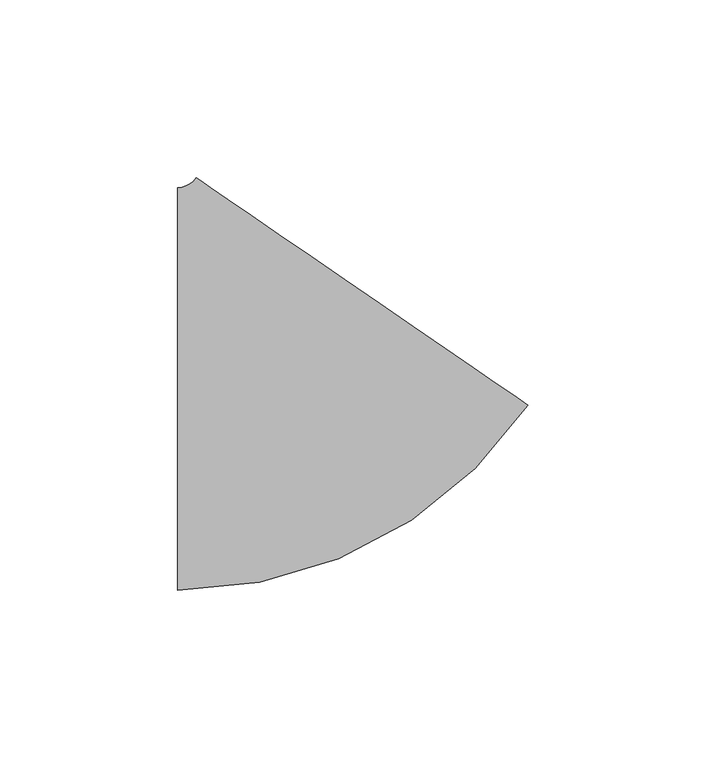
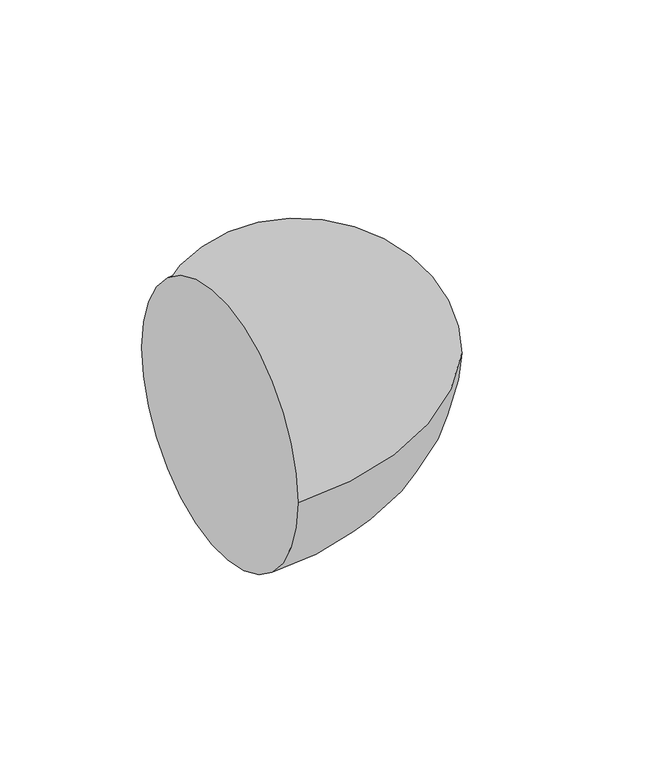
"""IFC4 building model written with IfcOpenShell, lengths in millimetres: pipe fitting geometry, M_Codo - Genérico : Estándar."""

import ifcopenshell
import ifcopenshell.guid

model = None  # the IFC model being written
_history = None  # IfcOwnerHistory: only IFC2X3 demands one
_inside = {}  # id of a spatial element -> (the spatial element, [elements in it])
_under = {}  # id of a project, library or spatial element -> (it, [spatial elements below it])
_declared = {}  # id of a project -> (the project, [libraries it declares])
_typed = {}  # id of a type object -> (the type object, [elements of that type])
_made_of = {}  # id of a material, layer set ... -> (it, [elements and type objects made of it])


def new_model(schema):
    """Start an empty IFC model of exactly this schema.

    Asked for "IFC4X3", IfcOpenShell would pick the latest addendum, in which some entities
    have other attributes; the version numbers below select the first issue.
    IFC2X3 requires an IfcOwnerHistory on every rooted entity: one is made here for all.
    """
    global model, _history
    if schema == "IFC4X3":
        model = ifcopenshell.file(schema_version=(4, 3, 0, 0))
    else:
        model = ifcopenshell.file(schema=schema)
    _inside.clear()
    _under.clear()
    _declared.clear()
    _typed.clear()
    _made_of.clear()
    _history = None
    if model.schema == "IFC2X3":
        org = make("IfcOrganization", Name="unknown")
        user = make(
            "IfcPersonAndOrganization",
            ThePerson=make("IfcPerson", FamilyName="unknown"),
            TheOrganization=org,
        )
        app = make(
            "IfcApplication",
            ApplicationDeveloper=org,
            Version="unknown",
            ApplicationFullName="unknown",
            ApplicationIdentifier="unknown",
        )
        _history = make(
            "IfcOwnerHistory",
            OwningUser=user,
            OwningApplication=app,
            ChangeAction="ADDED",
            CreationDate=0,
        )
    return model


def make(cls, **values):
    """One entity of the class cls with the attributes given. An attribute that is None is left unset."""
    return model.create_entity(
        cls, **{name: value for name, value in values.items() if value is not None}
    )


def rooted(cls, **values):
    """An entity with a GlobalId (a new one), such as an element, a storey or a relation."""
    return make(cls, GlobalId=ifcopenshell.guid.new(), OwnerHistory=_history, **values)


def si_unit(unit_type, name, prefix=None):
    """IfcSIUnit, for example si_unit("LENGTHUNIT", "METRE", prefix="MILLI")."""
    return make("IfcSIUnit", UnitType=unit_type, Prefix=prefix, Name=name)


def assignment(units):
    """IfcUnitAssignment: the units of a project."""
    return None if units is None else make("IfcUnitAssignment", Units=units)


def point(xyz):
    """IfcCartesianPoint."""
    return None if xyz is None else make("IfcCartesianPoint", Coordinates=xyz)


def direction(xyz):
    """IfcDirection."""
    return None if xyz is None else make("IfcDirection", DirectionRatios=xyz)


def frame(location, z_axis=None, x_axis=None):
    """IfcAxis2Placement3D, a coordinate frame: its origin and axes. An axis left out is left unset."""
    return make(
        "IfcAxis2Placement3D",
        Location=point(location),
        Axis=direction(z_axis),
        RefDirection=direction(x_axis),
    )


def origin():
    """The frame at (0, 0, 0) with its axes left unset."""
    return frame((0.0, 0.0, 0.0))


def place(relative_to, where):
    """IfcLocalPlacement: puts the frame where relative to a parent placement (None: the world)."""
    return make(
        "IfcLocalPlacement", PlacementRelTo=relative_to, RelativePlacement=where
    )


def context(
    kind, dimensions, precision=None, world=None, true_north=None, identifier=None
):
    """IfcGeometricRepresentationContext, for example the 3D "Model" context."""
    return make(
        "IfcGeometricRepresentationContext",
        ContextIdentifier=identifier,
        ContextType=kind,
        CoordinateSpaceDimension=dimensions,
        Precision=precision,
        WorldCoordinateSystem=world,
        TrueNorth=true_north,
    )


def project(units=None, contexts=None):
    """IfcProject with its units and contexts."""
    return rooted(
        "IfcProject",
        Name="project",
        RepresentationContexts=contexts,
        UnitsInContext=assignment(units),
    )


def spatial(cls, under=None, at=None, **own):
    """A site, building, storey or space (cls), placed at a placement, below another one or the project."""
    s = rooted(cls, ObjectPlacement=at, **own)
    if under is not None:
        _under.setdefault(under.id(), (under, []))[1].append(s)
    return s


def circle_curve(where, radius):
    """IfcCircle in the frame where."""
    return make("IfcCircle", Position=where, Radius=radius)


def ellipse_curve(where, semi_axis1, semi_axis2):
    """IfcEllipse in the frame where."""
    return make(
        "IfcEllipse", Position=where, SemiAxis1=semi_axis1, SemiAxis2=semi_axis2
    )


def trimmed(basis, trim1, trim2, sense, master):
    """IfcTrimmedCurve: the piece of a basis curve between two trims."""
    return make(
        "IfcTrimmedCurve",
        BasisCurve=basis,
        Trim1=trim1,
        Trim2=trim2,
        SenseAgreement=sense,
        MasterRepresentation=master,
    )


def shape(context_of_items, identifier, shape_type, items):
    """IfcShapeRepresentation: the items that make up one representation, for example the "Body"."""
    return make(
        "IfcShapeRepresentation",
        ContextOfItems=context_of_items,
        RepresentationIdentifier=identifier,
        RepresentationType=shape_type,
        Items=items,
    )


def source(mapping_origin, context_of_items, identifier, shape_type, items):
    """IfcRepresentationMap: a shape defined once, which mapped items show again and again."""
    return make(
        "IfcRepresentationMap",
        MappingOrigin=mapping_origin,
        MappedRepresentation=shape(context_of_items, identifier, shape_type, items),
    )


def transform(
    local_origin,
    x_axis=None,
    y_axis=None,
    z_axis=None,
    scale=None,
    scale2=None,
    scale3=None,
    uniform=True,
):
    """IfcCartesianTransformationOperator3D, or its non-uniform kind. x_axis, y_axis, z_axis: its Axis1, 2, 3."""
    if uniform:
        return make(
            "IfcCartesianTransformationOperator3D",
            Axis1=direction(x_axis),
            Axis2=direction(y_axis),
            LocalOrigin=point(local_origin),
            Scale=scale,
            Axis3=direction(z_axis),
        )
    return make(
        "IfcCartesianTransformationOperator3DnonUniform",
        Axis1=direction(x_axis),
        Axis2=direction(y_axis),
        LocalOrigin=point(local_origin),
        Scale=scale,
        Axis3=direction(z_axis),
        Scale2=scale2,
        Scale3=scale3,
    )


def mapped(mapping_source, mapping_target):
    """IfcMappedItem: shows the shape of a source again, moved by a transform."""
    return make(
        "IfcMappedItem", MappingSource=mapping_source, MappingTarget=mapping_target
    )


def made_of(thing, what):
    """Note that an element or type object is made of a material, layer set ...; save() writes the relation."""
    if what is not None:
        _made_of.setdefault(what.id(), (what, []))[1].append(thing)
    return thing


def element(
    cls,
    number,
    at=None,
    inside=None,
    cuts=None,
    type_object=None,
    material=None,
    context=None,
    identifier="Body",
    shape_type=None,
    held_by="IfcProductDefinitionShape",
    body=None,
    shapes=None,
    **own,
):
    """One element of the class cls, such as IfcWall. Its Tag is "e" and its number.

    at: its placement. inside: the storey or other place that contains it. cuts: it is an
    opening in that element (IfcRelVoidsElement). A single representation is given by context,
    identifier, shape_type and body (its items); several are given by shapes. held_by: the class
    of the entity that holds the representations. save() writes the other relations.
    """
    e = rooted(cls, Tag="e%d" % number, ObjectPlacement=at, **own)
    if body is not None:
        shapes = [shape(context, identifier, shape_type, body)]
    if shapes is not None:
        e.Representation = make(held_by, Representations=shapes)
    if inside is not None:
        _inside.setdefault(inside.id(), (inside, []))[1].append(e)
    if cuts is not None:
        rooted(
            "IfcRelVoidsElement", RelatingBuildingElement=cuts, RelatedOpeningElement=e
        )
    if type_object is not None:
        _typed.setdefault(type_object.id(), (type_object, []))[1].append(e)
    return made_of(e, material)


def aggregate(whole, parts):
    """IfcRelAggregates: a whole, such as a stair, and the parts it consists of."""
    return rooted("IfcRelAggregates", RelatingObject=whole, RelatedObjects=parts)


def save(model, path):
    """Write the relations noted so far, then the file.

    IfcRelAggregates (storeys below a building ...), IfcRelContainedInSpatialStructure (elements
    in a storey), IfcRelDefinesByType, IfcRelAssociatesMaterial and IfcRelDeclares: one each for
    every whole, place, type object, material and project.
    """
    for whole, parts in _under.values():
        aggregate(whole, parts)
    for where, things in _inside.values():
        rooted(
            "IfcRelContainedInSpatialStructure",
            RelatedElements=things,
            RelatingStructure=where,
        )
    for kind, things in _typed.values():
        rooted("IfcRelDefinesByType", RelatedObjects=things, RelatingType=kind)
    for what, things in _made_of.values():
        rooted("IfcRelAssociatesMaterial", RelatedObjects=things, RelatingMaterial=what)
    for by, libraries in _declared.values():
        rooted("IfcRelDeclares", RelatingContext=by, RelatedDefinitions=libraries)
    model.write(path)


def plane_surface(at):
    """IfcPlane: the flat surface through the origin of the frame at, square to its z axis."""
    return make("IfcPlane", Position=at)


def revolved_surface(curve, axis_point, axis_direction):
    """IfcSurfaceOfRevolution: the curve turned about the line through axis_point along axis_direction."""
    return make(
        "IfcSurfaceOfRevolution",
        SweptCurve=make("IfcArbitraryOpenProfileDef", ProfileType="CURVE", Curve=curve),
        AxisPosition=make("IfcAxis1Placement", Location=point(axis_point), Axis=direction(axis_direction)),
    )


def advanced_brep(points, edges, surfaces, faces):
    """IfcAdvancedBrep: a solid bounded by faces that lie on surfaces and meet in shared edges.

    An edge is (start, end): straight between two places in points (the first is 0);
    or (start, end, curve); or (start, end, curve, False) where it runs against its curve.
    A face is (place in surfaces, loops), or (place, loops, False) where it looks against
    its surface's normal. A loop lists edges by number (the first is 1), with a minus sign
    where the edge is run from its end to its start. The first loop is the outer one.
    """
    corners = [point(p) for p in points]
    vertices = [make("IfcVertexPoint", VertexGeometry=c) for c in corners]
    made = []
    for start, end, *more in edges:
        made.append(
            make(
                "IfcEdgeCurve",
                EdgeStart=vertices[start],
                EdgeEnd=vertices[end],
                EdgeGeometry=more[0] if more else make("IfcPolyline", Points=[corners[start], corners[end]]),
                SameSense=more[1] if len(more) > 1 else True,
            )
        )
    hull = []
    for where, loops, *sense in faces:
        bounds = []
        for j, loop in enumerate(loops):
            ring = [make("IfcOrientedEdge", EdgeElement=made[abs(k) - 1], Orientation=k > 0) for k in loop]
            bounds.append(
                make(
                    "IfcFaceOuterBound" if j == 0 else "IfcFaceBound",
                    Bound=make("IfcEdgeLoop", EdgeList=ring),
                    Orientation=True,
                )
            )
        hull.append(make("IfcAdvancedFace", Bounds=bounds, FaceSurface=surfaces[where], SameSense=sense[0] if sense else True))
    return make("IfcAdvancedBrep", Outer=make("IfcClosedShell", CfsFaces=hull))


def pipe_fitting_c627985a(model_context):
    return source(origin(), model_context, "Body", "AdvancedBrep", [
        advanced_brep(
        [(-33.1749699, -56.5875, 0.0), (-33.1749699, 56.5875, 0.0), (65.4329336, -4.6103125, 0.0), (-27.9362317, 59.34889, 0.0)],
        [
            (0, 1, circle_curve(frame((-33.1749699, 0.0, 0.0), z_axis=(-1.0, 0.0, 0.0), x_axis=(0.0, 1.0, 0.0)), 56.5875)),
            (1, 0, circle_curve(frame((-33.1749699, 0.0, 0.0), z_axis=(-1.0, 0.0, 0.0), x_axis=(0.0, 1.0, 0.0)), 56.5875)),
            (2, 3, circle_curve(frame((18.748351, 27.3692888, 0.0), z_axis=(0.5651354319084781, 0.8249981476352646, 0.0), x_axis=(-0.8249981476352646, 0.5651354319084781, 0.0)), 56.5875)),
            (3, 2, circle_curve(frame((18.748351, 27.3692888, 0.0), z_axis=(0.5651354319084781, 0.8249981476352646, 0.0), x_axis=(-0.8249981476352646, 0.5651354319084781, 0.0)), 56.5875)),
            (3, 1, circle_curve(frame((-33.1749699, 62.9375, 0.0), z_axis=(0.0, 0.0, -1.0), x_axis=(0.0, -1.0, 0.0)), 6.35)),
            (0, 2, circle_curve(frame((-33.1749699, 62.9375, 0.0), z_axis=(0.0, 0.0, 1.0), x_axis=(0.0, -1.0, 0.0)), 119.525)),
        ],
        [
            plane_surface(frame((-33.1749699, 0.0, 0.0), z_axis=(-1.0, 0.0, 0.0), x_axis=(0.0, 0.0, 1.0))),
            plane_surface(frame((18.748351, 27.3692888, 0.0), z_axis=(0.5651354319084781, 0.8249981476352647, 0.0), x_axis=(0.0, 0.0, 1.0))),
            revolved_surface(trimmed(ellipse_curve(frame((-33.1749699, 0.0, 0.0), z_axis=(-1.0, 0.0, 0.0), x_axis=(0.0, 1.0, 0.0)), 56.5875, 56.5875), [point((-33.1749699, -56.5875, 0.0))], [point((-33.1749699, 56.5875, 0.0))], True, "CARTESIAN"), (-33.1749699, 62.9375, 0.0), (0.0, 0.0, 1.0)),
            revolved_surface(trimmed(ellipse_curve(frame((-33.1749699, 0.0, 0.0), z_axis=(-1.0, 0.0, 0.0), x_axis=(0.0, 1.0, 0.0)), 56.5875, 56.5875), [point((-33.1749699, 56.5875, 0.0))], [point((-33.1749699, -56.5875, 0.0))], True, "CARTESIAN"), (-33.1749699, 62.9375, 0.0), (0.0, 0.0, 1.0)),
        ],
        [
            (0, [[1, 2]]),
            (1, [[3, 4]]),
            (2, [[5, -1, 6, -4]]),
            (3, [[-6, -2, -5, -3]]),
        ],
    ),
    ])


if __name__ == "__main__":
    model = new_model("IFC4")
    model_context = context("Model", 3, world=origin())
    ifc_project = project(units=[si_unit("LENGTHUNIT", "METRE", prefix="MILLI")], contexts=[model_context])
    site = spatial("IfcSite", under=ifc_project)
    building = spatial("IfcBuilding", under=site)
    placement = place(None, origin())
    pipe_fitting_shape = pipe_fitting_c627985a(model_context)
    element("IfcPipeFitting", 1, ObjectType="M_Codo - Genérico : Estándar", at=placement, inside=building, context=model_context, shape_type="MappedRepresentation", body=[
        mapped(pipe_fitting_shape, transform((0.0, 0.0, 0.0), x_axis=(1.0, 0.0, 0.0), y_axis=(0.0, 1.0, 0.0), z_axis=(0.0, 0.0, 1.0))),
    ])
    save(model, "model.ifc")
